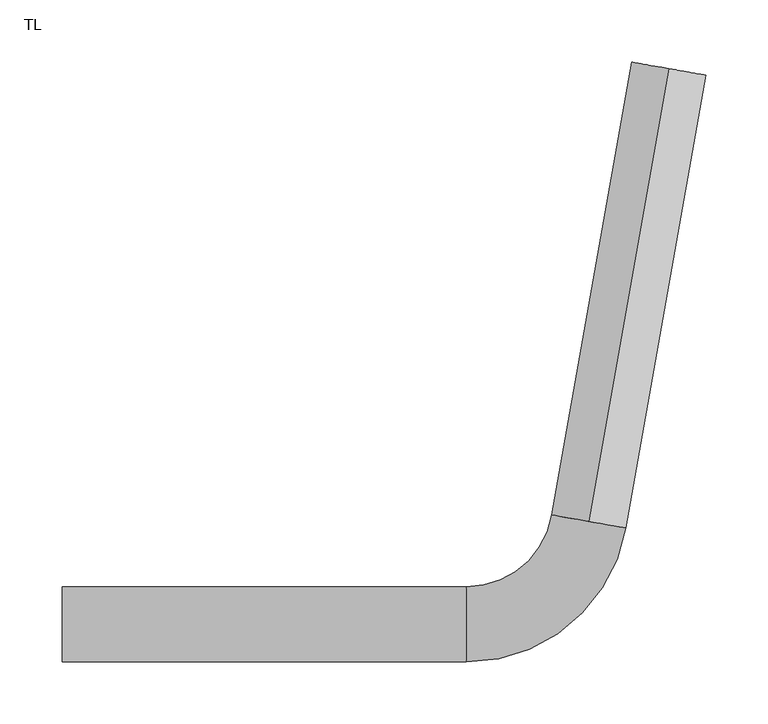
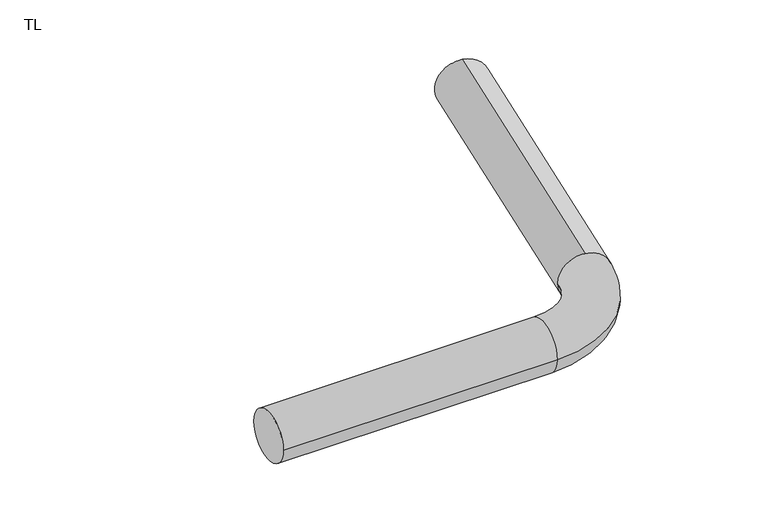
"""IFC4 building model written with IfcOpenShell, lengths in millimetres: pipe fitting geometry, PavcoWavin_PipeFittings_Curva : TL."""

from ifc_helpers import new_model, si_unit, point, frame, origin, place, context, project, spatial, circle_curve, ellipse_curve, trimmed, source, transform, mapped, element, save
from ifc_brep_helpers import plane_surface, cylinder_surface, revolved_surface, advanced_brep


def tl_10c20af0(model_context):
    return source(origin(), model_context, "Body", "AdvancedBrep", [
        advanced_brep(
        [(-408.9099631, -30.16, 0.0), (-408.9099631, 30.16, 0.0), (-83.9099631, -30.16, 0.0), (-83.9099631, 30.16, 0.0), (44.272614, 77.3979532, 0.0), (14.5708122, 82.6351822, 30.16), (-15.1309896, 87.8724113, 0.0), (14.5708122, 82.6351822, -30.16), (78.8206379, 447.0140508, -30.16), (78.8206379, 447.0140508, 30.16)],
        [
            (0, 1, circle_curve(frame((-408.9099631, 0.0, 0.0), z_axis=(-1.0, 0.0, 0.0), x_axis=(0.0, 1.0, 0.0)), 30.16)),
            (1, 0, circle_curve(frame((-408.9099631, 0.0, 0.0), z_axis=(-1.0, 0.0, 0.0), x_axis=(0.0, 1.0, 0.0)), 30.16)),
            (0, 2),
            (2, 3, circle_curve(frame((-83.9099631, 0.0, 0.0), z_axis=(-1.0, 0.0, 0.0), x_axis=(0.0, 1.0, 0.0)), 30.16)),
            (3, 1),
            (3, 2, circle_curve(frame((-83.9099631, 0.0, 0.0), z_axis=(-1.0, 0.0, 0.0), x_axis=(0.0, 1.0, 0.0)), 30.16)),
            (2, 4, circle_curve(frame((-83.9099631, 100.0, 0.0), z_axis=(0.0, 0.0, 1.0), x_axis=(0.0, -1.0, 0.0)), 130.16)),
            (4, 5, circle_curve(frame((14.5708122, 82.6351822, 0.0), z_axis=(-0.17364817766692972, -0.9848077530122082, 0.0), x_axis=(-0.9848077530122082, 0.17364817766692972, 0.0)), 30.16)),
            (5, 6, circle_curve(frame((14.5708122, 82.6351822, 0.0), z_axis=(-0.17364817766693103, -0.984807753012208, 0.0), x_axis=(-0.984807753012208, 0.17364817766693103, 0.0)), 30.16)),
            (6, 3, circle_curve(frame((-83.9099631, 100.0, 0.0), z_axis=(0.0, 0.0, -1.0), x_axis=(0.0, -1.0, 0.0)), 69.84)),
            (6, 7, circle_curve(frame((14.5708122, 82.6351822, 0.0), z_axis=(-0.17364817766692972, -0.9848077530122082, 0.0), x_axis=(-0.9848077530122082, 0.17364817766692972, 0.0)), 30.16)),
            (7, 4, circle_curve(frame((14.5708122, 82.6351822, 0.0), z_axis=(-0.17364817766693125, -0.9848077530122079, 0.0), x_axis=(-0.9848077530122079, 0.17364817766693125, 0.0)), 30.16)),
            (8, 9, circle_curve(frame((78.8206379, 447.0140508, 0.0), z_axis=(0.17364817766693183, 0.9848077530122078, 0.0), x_axis=(0.0, 0.0, 1.0)), 30.16)),
            (9, 8, circle_curve(frame((78.8206379, 447.0140508, 0.0), z_axis=(0.17364817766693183, 0.9848077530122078, 0.0), x_axis=(0.0, 0.0, 1.0)), 30.16)),
            (8, 7),
            (5, 9),
        ],
        [
            plane_surface(frame((-408.9099631, 0.0, 0.0), z_axis=(-1.0, 0.0, 0.0), x_axis=(0.0, 0.0, 1.0))),
            cylinder_surface(frame((-408.9099631, 0.0, 0.0), z_axis=(-1.0, 0.0, 0.0), x_axis=(0.0, 1.0, 0.0)), 30.16),
            revolved_surface(trimmed(ellipse_curve(frame((-83.9099631, 0.0, 0.0), z_axis=(-1.0, 0.0, 0.0), x_axis=(0.0, 1.0, 0.0)), 30.16, 30.16), [point((-83.9099631, -30.16, 0.0))], [point((-83.9099631, 30.16, 0.0))], True, "CARTESIAN"), (-83.9099631, 100.0, 0.0), (0.0, 0.0, 1.0)),
            revolved_surface(trimmed(ellipse_curve(frame((-83.9099631, 0.0, 0.0), z_axis=(-1.0, 0.0, 0.0), x_axis=(0.0, 1.0, 0.0)), 30.16, 30.16), [point((-83.9099631, 30.16, 0.0))], [point((-83.9099631, -30.16, 0.0))], True, "CARTESIAN"), (-83.9099631, 100.0, 0.0), (0.0, 0.0, 1.0)),
            plane_surface(frame((78.8206379, 447.0140508, 30.16), z_axis=(0.17364817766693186, 0.9848077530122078, 0.0), x_axis=(0.9848077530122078, -0.17364817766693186, 0.0))),
            cylinder_surface(frame((14.5708122, 82.6351822, 0.0), z_axis=(0.17364817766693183, 0.9848077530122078, 0.0), x_axis=(0.0, 0.0, 1.0)), 30.16),
        ],
        [
            (0, [[1, 2]]),
            (1, [[-1, 3, 4, 5]]),
            (1, [[-2, -5, 6, -3]]),
            (2, [[-4, 7, 8, 9, 10]]),
            (3, [[-6, -10, 11, 12, -7]]),
            (4, [[13, 14]]),
            (5, [[-13, 15, -11, -9, 16]]),
            (5, [[-14, -16, -8, -12, -15]]),
        ],
    ),
    ])


if __name__ == "__main__":
    model = new_model("IFC4")
    model_context = context("Model", 3, world=origin())
    ifc_project = project(units=[si_unit("LENGTHUNIT", "METRE", prefix="MILLI")], contexts=[model_context])
    site = spatial("IfcSite", under=ifc_project)
    building = spatial("IfcBuilding", under=site)
    placement = place(None, origin())
    tl_shape = tl_10c20af0(model_context)
    element("IfcPipeFitting", 1, ObjectType="PavcoWavin_PipeFittings_Curva : TL", at=placement, inside=building, context=model_context, shape_type="MappedRepresentation", body=[
        mapped(tl_shape, transform((0.0, 0.0, 0.0), x_axis=(1.0, 0.0, 0.0), y_axis=(0.0, 1.0, 0.0), z_axis=(0.0, 0.0, 1.0))),
    ])
    save(model, "model.ifc")
